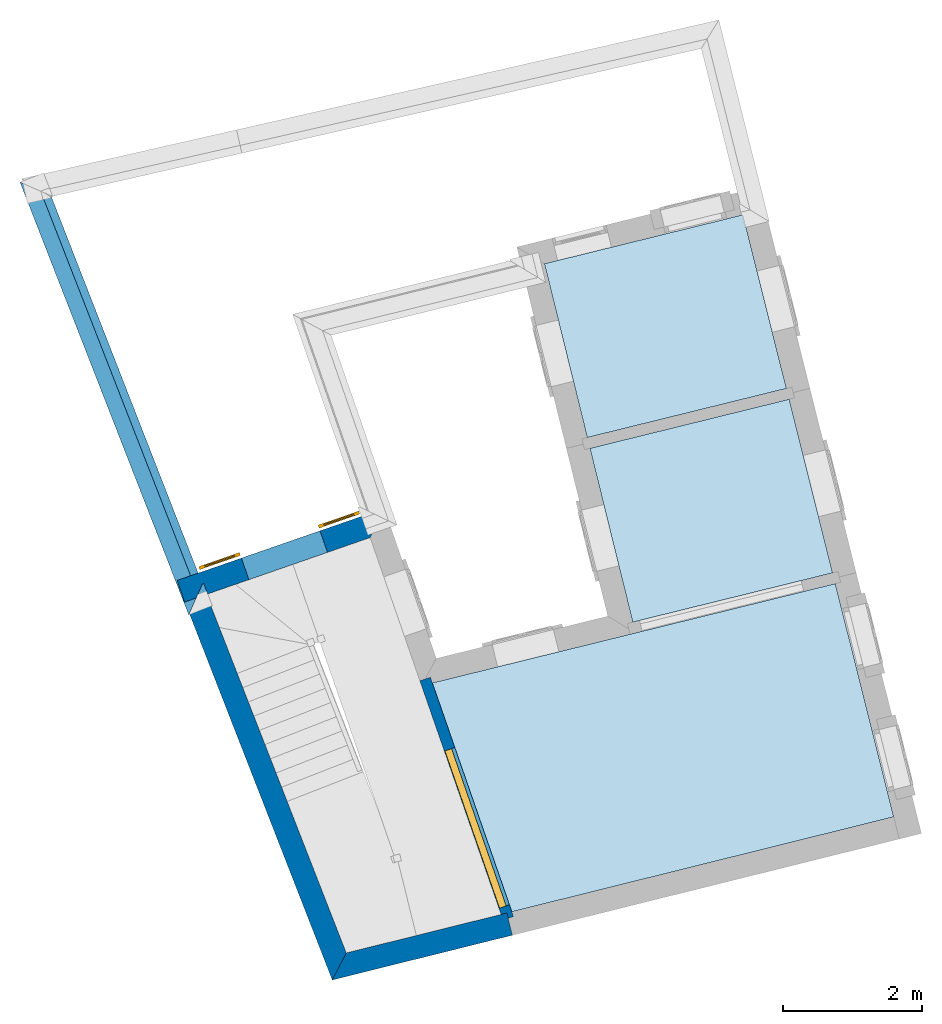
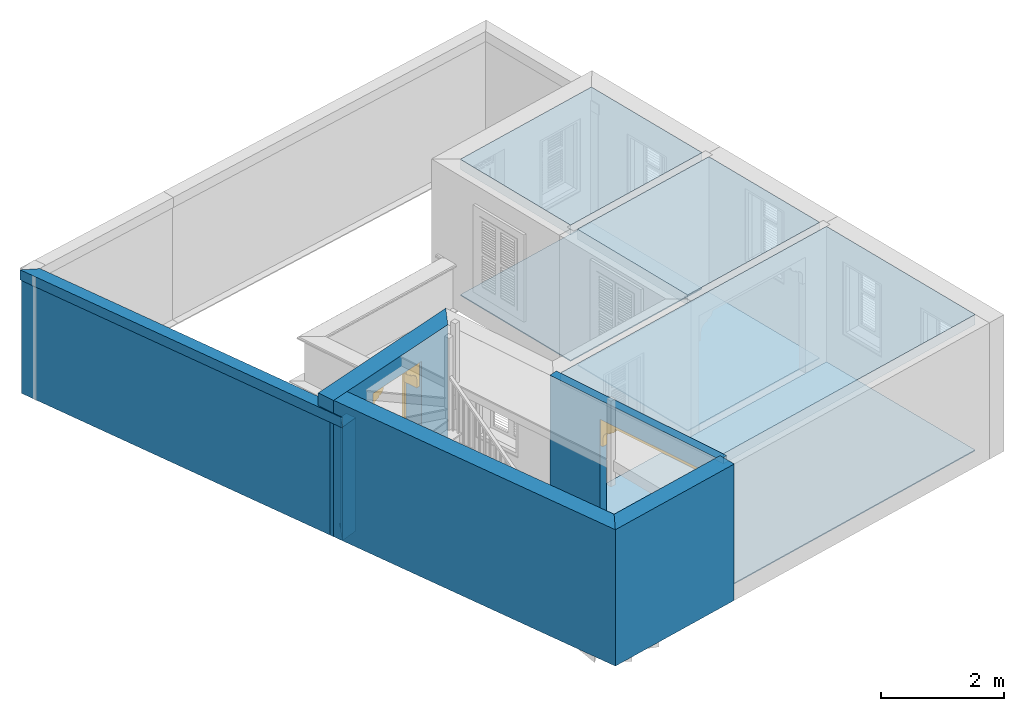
# One storey, part 1 of 8: 7 walls, 6 slabs, 2 doors, 2 openings.
"""IFC4 building model written with IfcOpenShell, lengths in metres."""

from ifc_helpers import new_model, si_unit, frame, origin, origin_with_axes, place, context, subcontext, project, spatial, polyline, outline, extrude, clip, halfspace, faceted_brep, source, transform, mapped, material, layer, layer_set, layer_usage, material_profile, profile_set, profile_usage, type_object, type_shapes, element, fill, save


model = new_model("IFC4")

# Units and contexts
model_context = context("Model", 3, world=origin_with_axes())
body_context = subcontext(model_context, "Body", "Model", "MODEL_VIEW")
ifc_project = project(units=[si_unit("PLANEANGLEUNIT", "RADIAN"), si_unit("MASSUNIT", "GRAM", prefix="KILO"), si_unit("FORCEUNIT", "NEWTON", prefix="KILO"), si_unit("LENGTHUNIT", "METRE"), si_unit("AREAUNIT", "SQUARE_METRE"), si_unit("VOLUMEUNIT", "CUBIC_METRE")], contexts=[model_context, model_context])

# Site, building, storey
site_placement = place(None, origin_with_axes())
site = spatial("IfcSite", under=ifc_project, at=site_placement, Name="Site plot-1", CompositionType="ELEMENT")
building_placement = place(None, origin_with_axes())
building = spatial("IfcBuilding", under=site, at=building_placement, Name="Building plot-1", CompositionType="ELEMENT")
storey_placement = place(None, frame((0.0, 0.0, 2.7), z_axis=(0.0, 0.0, 1.0), x_axis=(1.0, 0.0, 0.0)))
storey = spatial("IfcBuildingStorey", under=building, at=storey_placement, Name="plot-1 1", CompositionType="ELEMENT", Elevation=2.7)

# Slabs
slab_1_placement = place(storey_placement, frame((3.21229608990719, 18.6693950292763, 2.5)))
element("IfcSlab", 1, at=slab_1_placement, inside=storey, Name="My Slab", ObjectType="Slab", PredefinedType="FLOOR", context=body_context, shape_type="SweptSolid", body=[
    extrude(outline(polyline([(0.0, 0.0), (2.8815385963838, 0.709979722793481), (2.25444711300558, 3.21355180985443), (-0.617438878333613, 2.5059503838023), (0.0, 0.0)])), origin_with_axes(), (0.0, 0.0, 1.0), 0.2),
])
slab_2_placement = place(storey_placement, frame((3.21229608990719, 18.6693950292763, 0.0)))
element("IfcSlab", 2, at=slab_2_placement, inside=storey, Name="My Slab", ObjectType="Slab", PredefinedType="FLOOR", context=body_context, shape_type="SweptSolid", body=[
    extrude(outline(polyline([(0.0, 0.0), (2.8815385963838, 0.709979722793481), (2.25444711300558, 3.21355180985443), (-0.617438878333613, 2.5059503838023), (0.0, 0.0)])), origin_with_axes(), (0.0, 0.0, 1.0), 0.02),
])
slab_3_placement = place(storey_placement, frame((5.42786729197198, 22.0381532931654, 2.5)))
element("IfcSlab", 3, at=slab_3_placement, inside=storey, Name="My Slab", ObjectType="Slab", PredefinedType="FLOOR", context=body_context, shape_type="SweptSolid", body=[
    extrude(outline(polyline([(0.0, 0.0), (-0.627091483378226, 2.50357208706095), (-3.48872646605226, 1.79849639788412), (-2.87128758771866, -0.707453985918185), (0.0, 0.0)])), origin_with_axes(), (0.0, 0.0, 1.0), 0.2),
])
slab_4_placement = place(storey_placement, frame((5.42786729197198, 22.0381532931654, 0.0)))
element("IfcSlab", 4, at=slab_4_placement, inside=storey, Name="My Slab", ObjectType="Slab", PredefinedType="FLOOR", context=body_context, shape_type="SweptSolid", body=[
    extrude(outline(polyline([(0.0, 0.0), (-0.627091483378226, 2.50357208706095), (-3.48872646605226, 1.79849639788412), (-2.87128758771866, -0.707453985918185), (0.0, 0.0)])), origin_with_axes(), (0.0, 0.0, 1.0), 0.02),
])
slab_5_placement = place(storey_placement, frame((0.32336666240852, 17.7928092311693, 2.5)))
element("IfcSlab", 5, at=slab_5_placement, inside=storey, Name="My Slab", ObjectType="Slab", PredefinedType="FLOOR", context=body_context, shape_type="SweptSolid", body=[
    extrude(outline(polyline([(0.0, 0.0), (1.14584989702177, -3.29921085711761), (6.6514852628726, -1.93076843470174), (5.80934393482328, 1.43135906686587), (0.0, 0.0)])), origin_with_axes(), (0.0, 0.0, 1.0), 0.2),
])
slab_6_placement = place(storey_placement, frame((0.32336666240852, 17.7928092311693, 0.0)))
element("IfcSlab", 6, at=slab_6_placement, inside=storey, Name="My Slab", ObjectType="Slab", PredefinedType="FLOOR", context=body_context, shape_type="SweptSolid", body=[
    extrude(outline(polyline([(0.0, 0.0), (1.14584989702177, -3.29921085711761), (6.6514852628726, -1.93076843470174), (5.80934393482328, 1.43135906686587), (0.0, 0.0)])), origin_with_axes(), (0.0, 0.0, 1.0), 0.02),
])

# Wall, opening, door
ifc_material_1 = material(Name="Masonry")
ifc_layer_1 = layer(ifc_material_1, 0.33, ventilated=False)
ifc_layer_set_1 = layer_set([ifc_layer_1], Name="exterior_0.08_0.25")
ifc_layer_usage_1 = layer_usage(ifc_layer_set_1, "AXIS2", "POSITIVE", -0.25)
wall_type_1 = type_object("IfcWallType", Name="exterior_0.08_0.25", PredefinedType="SOLIDWALL", material=ifc_layer_set_1)
wall_1_placement = place(storey_placement, frame((-0.524368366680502, 19.9898284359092, 0.0), z_axis=(0.0, 0.0, 1.0), x_axis=(-0.944647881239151, -0.328085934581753, 0.0)))
wall_1 = element("IfcWall", 7, at=wall_1_placement, inside=storey, type_object=wall_type_1, material=ifc_layer_usage_1, Name="exterior", context=body_context, shape_type="SweptSolid", body=[
    extrude(outline(polyline([(0.0799999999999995, 0.0799999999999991), (-0.249999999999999, -0.249999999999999), (2.91117707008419, -0.25), (2.91117707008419, 0.0799999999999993), (0.0799999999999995, 0.0799999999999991)])), origin_with_axes(), (0.0, 0.0, 1.0), 2.7),
])
opening_1_placement = place(wall_1_placement, frame((0.730588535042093, 0.0, 0.02)))
opening_1 = element("IfcOpeningElement", 8, at=opening_1_placement, cuts=wall_1, Name="My Opening", ObjectType="Opening", context=body_context, shape_type="SweptSolid", body=[
    extrude(outline(polyline([(0.0, -0.27), (1.2, -0.269999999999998), (1.2, 1.1), (-3.33066907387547e-16, 1.1), (0.0, -0.27)])), origin_with_axes(), (0.0, 0.0, 1.0), 2.3),
])
door_type_1 = type_object("IfcDoorType", Name="arch-1200x2300", OperationType="SINGLE_SWING_LEFT", PredefinedType="NOTDEFINED")
shared_shape_1 = source(origin(), body_context, "Body", "Brep", [
    faceted_brep([(-0.08, -0.02, 0.08), (-0.08, -0.02, 0.0), (-0.54, -0.02, 0.0), (-0.54, -0.02, 0.08), (-0.62, -0.02, 0.0), (-0.62, -0.02, 0.08), (-0.54, -0.035, 0.08), (-0.08, -0.035, 0.08), (0.0, -0.02, 0.08), (0.0, -0.02, 0.0), (-0.08, -0.066, 0.0), (-0.54, -0.066, 0.0), (-0.62, -0.066, 0.0), (-0.62, -0.066, 0.08), (-0.54, -0.02, 0.743333), (-0.62, -0.02, 0.743333), (-0.54, -0.035, 0.743333), (-0.08, -0.035, 0.743333), (-0.08, -0.02, 0.743333), (0.0, -0.02, 0.743333), (0.0, -0.066, 0.08), (0.0, -0.066, 0.0), (-0.54, -0.066, 0.08), (-0.08, -0.066, 0.08), (-0.62, -0.066, 0.743333), (-0.54, -0.02, 0.823333), (-0.62, -0.02, 0.823333), (0.0, -0.066, 0.743333), (0.0, -0.02, 0.823333), (-0.08, -0.02, 0.823333), (-0.08, -0.051, 0.08), (-0.54, -0.051, 0.08), (-0.54, -0.066, 0.743333), (-0.62, -0.066, 0.823333), (-0.54, -0.02, 1.486667), (-0.62, -0.02, 1.486667), (0.0, -0.066, 0.823333), (-0.08, -0.066, 0.743333), (0.0, -0.02, 1.486667), (-0.08, -0.02, 1.486667), (-0.08, -0.051, 0.743333), (-0.54, -0.051, 0.743333), (-0.54, -0.066, 0.823333), (-0.62, -0.066, 1.486667), (-0.54, -0.035, 0.823333), (-0.08, -0.035, 0.823333), (-0.54, -0.035, 1.486667), (-0.54, -0.02, 1.566667), (-0.62, -0.02, 1.566667), (0.0, -0.066, 1.486667), (-0.08, -0.066, 0.823333), (-0.08, -0.035, 1.486667), (0.0, -0.02, 1.566667), (-0.08, -0.02, 1.566667), (-0.54, -0.066, 1.486667), (-0.62, -0.066, 1.566667), (-0.54, -0.02, 2.23), (-0.62, -0.02, 2.23), (0.0, -0.066, 1.566667), (-0.08, -0.066, 1.486667), (0.0, -0.02, 2.23), (-0.08, -0.02, 2.23), (-0.08, -0.051, 0.823333), (-0.54, -0.051, 0.823333), (-0.54, -0.051, 1.486667), (-0.54, -0.066, 1.566667), (-0.62, -0.066, 2.23), (-0.54, -0.035, 1.566667), (-0.08, -0.035, 1.566667), (-0.54, -0.035, 2.23), (-0.54, -0.02, 2.31), (-0.62, -0.02, 2.31), (0.0, -0.066, 2.23), (-0.08, -0.066, 1.566667), (-0.08, -0.051, 1.486667), (-0.08, -0.035, 2.23), (0.0, -0.02, 2.31), (-0.08, -0.02, 2.31), (-0.54, -0.066, 2.23), (-0.62, -0.066, 2.31), (-0.54, -0.066, 2.31), (0.0, -0.066, 2.31), (-0.08, -0.066, 2.23), (-0.08, -0.066, 2.31), (-0.08, -0.051, 1.566667), (-0.54, -0.051, 1.566667), (-0.54, -0.051, 2.23), (-0.08, -0.051, 2.23), (1.74, -0.02, 0.08), (1.74, -0.02, 0.0), (1.28, -0.02, 0.0), (1.28, -0.02, 0.08), (1.82, -0.02, 0.08), (1.82, -0.02, 0.0), (1.28, -0.035, 0.08), (1.74, -0.035, 0.08), (1.2, -0.02, 0.0), (1.2, -0.02, 0.08), (1.74, -0.066, 0.0), (1.28, -0.066, 0.0), (1.82, -0.066, 0.08), (1.82, -0.066, 0.0), (1.82, -0.02, 0.743333), (1.74, -0.02, 0.743333), (1.74, -0.035, 0.743333), (1.28, -0.035, 0.743333), (1.28, -0.02, 0.743333), (1.2, -0.02, 0.743333), (1.2, -0.066, 0.0), (1.2, -0.066, 0.08), (1.28, -0.066, 0.08), (1.74, -0.066, 0.08), (1.82, -0.066, 0.743333), (1.82, -0.02, 0.823333), (1.74, -0.02, 0.823333), (1.2, -0.066, 0.743333), (1.28, -0.02, 0.823333), (1.2, -0.02, 0.823333), (1.74, -0.051, 0.08), (1.28, -0.051, 0.08), (1.74, -0.066, 0.743333), (1.82, -0.066, 0.823333), (1.82, -0.02, 1.486667), (1.74, -0.02, 1.486667), (1.2, -0.066, 0.823333), (1.28, -0.066, 0.743333), (1.28, -0.02, 1.486667), (1.2, -0.02, 1.486667), (1.28, -0.051, 0.743333), (1.74, -0.051, 0.743333), (1.74, -0.066, 0.823333), (1.82, -0.066, 1.486667), (1.28, -0.035, 0.823333), (1.74, -0.035, 0.823333), (1.74, -0.035, 1.486667), (1.82, -0.02, 1.566667), (1.74, -0.02, 1.566667), (1.2, -0.066, 1.486667), (1.28, -0.066, 0.823333), (1.28, -0.035, 1.486667), (1.28, -0.02, 1.566667), (1.2, -0.02, 1.566667), (1.74, -0.066, 1.486667), (1.82, -0.066, 1.566667), (1.82, -0.02, 2.23), (1.74, -0.02, 2.23), (1.2, -0.066, 1.566667), (1.28, -0.066, 1.486667), (1.28, -0.02, 2.23), (1.2, -0.02, 2.23), (1.74, -0.051, 0.823333), (1.28, -0.051, 0.823333), (1.74, -0.051, 1.486667), (1.74, -0.066, 1.566667), (1.82, -0.066, 2.23), (1.28, -0.035, 1.566667), (1.74, -0.035, 1.566667), (1.74, -0.035, 2.23), (1.82, -0.02, 2.31), (1.74, -0.02, 2.31), (1.2, -0.066, 2.23), (1.28, -0.066, 1.566667), (1.28, -0.051, 1.486667), (1.28, -0.035, 2.23), (1.28, -0.02, 2.31), (1.2, -0.02, 2.31), (1.74, -0.066, 2.23), (1.82, -0.066, 2.31), (1.74, -0.066, 2.31), (1.2, -0.066, 2.31), (1.28, -0.066, 2.23), (1.28, -0.066, 2.31), (1.74, -0.051, 1.566667), (1.28, -0.051, 1.566667), (1.74, -0.051, 2.23), (1.28, -0.051, 2.23), (1.2, 0.03, 1.78), (1.2, 0.03, 1.95), (1.14, 0.03, 1.95), (1.14, 0.03, 1.78), (1.14, 0.3, 1.95), (1.14, 0.3, 1.78), (1.2, 0.03, 2.12), (1.129, 0.03, 2.004), (1.2, 0.3, 1.78), (1.2, 0.3, 1.95), (1.129, 0.3, 2.004), (1.099, 0.03, 2.049), (1.2, 0.3, 2.12), (1.099, 0.3, 2.049), (1.054, 0.03, 2.079), (1.2, 0.3, 2.29), (1.2, 0.03, 2.29), (1.054, 0.3, 2.079), (1.0, 0.03, 2.09), (1.0, 0.03, 2.12), (0.954, 0.03, 2.129), (0.88, 0.3, 2.29), (0.88, 0.03, 2.29), (1.0, 0.3, 2.12), (0.954, 0.3, 2.129), (1.0, 0.3, 2.09), (0.915, 0.03, 2.155), (0.889, 0.3, 2.194), (0.88, 0.3, 2.24), (0.88, 0.03, 2.24), (0.889, 0.03, 2.194), (0.915, 0.3, 2.155), (0.06, 0.03, 1.78), (0.06, 0.03, 1.95), (0.0, 0.03, 1.95), (0.0, 0.03, 1.78), (0.06, 0.3, 1.78), (0.06, 0.3, 1.95), (0.071, 0.03, 2.004), (0.0, 0.03, 2.12), (0.0, 0.3, 1.95), (0.0, 0.3, 1.78), (0.071, 0.3, 2.004), (0.101, 0.03, 2.049), (0.0, 0.3, 2.12), (0.101, 0.3, 2.049), (0.146, 0.03, 2.079), (0.0, 0.03, 2.29), (0.0, 0.3, 2.29), (0.146, 0.3, 2.079), (0.2, 0.03, 2.12), (0.2, 0.03, 2.09), (0.246, 0.03, 2.129), (0.32, 0.03, 2.29), (0.32, 0.3, 2.29), (0.246, 0.3, 2.129), (0.2, 0.3, 2.12), (0.2, 0.3, 2.09), (0.285, 0.03, 2.155), (0.32, 0.3, 2.24), (0.311, 0.3, 2.194), (0.311, 0.03, 2.194), (0.32, 0.03, 2.24), (0.285, 0.3, 2.155)], [[[0, 1, 2, 3]], [[4, 5, 3, 2]], [[0, 3, 6, 7]], [[1, 0, 8, 9]], [[2, 1, 10, 11]], [[5, 4, 12, 13]], [[14, 3, 5, 15]], [[4, 2, 11, 12]], [[3, 14, 16, 6]], [[6, 16, 17, 7]], [[18, 0, 7, 17]], [[0, 18, 19, 8]], [[9, 8, 20, 21]], [[1, 9, 21, 10]], [[22, 11, 10, 23]], [[13, 12, 11, 22]], [[15, 5, 13, 24]], [[25, 14, 15, 26]], [[14, 18, 17, 16]], [[8, 19, 27, 20]], [[28, 19, 18, 29]], [[23, 10, 21, 20]], [[22, 23, 30, 31]], [[22, 32, 24, 13]], [[26, 15, 24, 33]], [[29, 18, 14, 25]], [[34, 25, 26, 35]], [[19, 28, 36, 27]], [[20, 27, 37, 23]], [[38, 28, 29, 39]], [[23, 37, 40, 30]], [[41, 31, 30, 40]], [[32, 22, 31, 41]], [[32, 42, 33, 24]], [[35, 26, 33, 43]], [[29, 25, 44, 45]], [[25, 34, 46, 44]], [[47, 34, 35, 48]], [[28, 38, 49, 36]], [[27, 36, 50, 37]], [[39, 29, 45, 51]], [[52, 38, 39, 53]], [[37, 32, 41, 40]], [[37, 50, 42, 32]], [[42, 54, 43, 33]], [[48, 35, 43, 55]], [[44, 46, 51, 45]], [[34, 39, 51, 46]], [[34, 47, 53, 39]], [[56, 47, 48, 57]], [[38, 52, 58, 49]], [[36, 49, 59, 50]], [[60, 52, 53, 61]], [[42, 50, 62, 63]], [[54, 42, 63, 64]], [[54, 65, 55, 43]], [[57, 48, 55, 66]], [[53, 47, 67, 68]], [[47, 56, 69, 67]], [[70, 56, 57, 71]], [[52, 60, 72, 58]], [[49, 58, 73, 59]], [[50, 59, 74, 62]], [[61, 53, 68, 75]], [[76, 60, 61, 77]], [[64, 63, 62, 74]], [[59, 54, 64, 74]], [[65, 54, 59, 73]], [[65, 78, 66, 55]], [[71, 57, 66, 79]], [[67, 69, 75, 68]], [[56, 61, 75, 69]], [[77, 61, 56, 70]], [[70, 71, 79, 80]], [[60, 76, 81, 72]], [[58, 72, 82, 73]], [[76, 77, 83, 81]], [[65, 73, 84, 85]], [[78, 65, 85, 86]], [[78, 80, 79, 66]], [[77, 70, 80, 83]], [[72, 81, 83, 82]], [[73, 82, 87, 84]], [[86, 85, 84, 87]], [[82, 78, 86, 87]], [[82, 83, 80, 78]], [[88, 89, 90, 91]], [[89, 88, 92, 93]], [[94, 95, 88, 91]], [[96, 97, 91, 90]], [[98, 99, 90, 89]], [[100, 101, 93, 92]], [[102, 92, 88, 103]], [[101, 98, 89, 93]], [[95, 104, 103, 88]], [[94, 105, 104, 95]], [[105, 94, 91, 106]], [[97, 107, 106, 91]], [[108, 109, 97, 96]], [[99, 108, 96, 90]], [[110, 99, 98, 111]], [[111, 98, 101, 100]], [[112, 100, 92, 102]], [[113, 102, 103, 114]], [[104, 105, 106, 103]], [[109, 115, 107, 97]], [[116, 106, 107, 117]], [[109, 108, 99, 110]], [[118, 119, 110, 111]], [[100, 112, 120, 111]], [[121, 112, 102, 113]], [[114, 103, 106, 116]], [[122, 113, 114, 123]], [[115, 124, 117, 107]], [[110, 125, 115, 109]], [[126, 116, 117, 127]], [[119, 128, 125, 110]], [[128, 119, 118, 129]], [[129, 118, 111, 120]], [[112, 121, 130, 120]], [[131, 121, 113, 122]], [[132, 133, 114, 116]], [[133, 134, 123, 114]], [[135, 122, 123, 136]], [[124, 137, 127, 117]], [[125, 138, 124, 115]], [[139, 132, 116, 126]], [[140, 126, 127, 141]], [[128, 129, 120, 125]], [[120, 130, 138, 125]], [[121, 131, 142, 130]], [[143, 131, 122, 135]], [[132, 139, 134, 133]], [[134, 139, 126, 123]], [[126, 140, 136, 123]], [[144, 135, 136, 145]], [[137, 146, 141, 127]], [[138, 147, 137, 124]], [[148, 140, 141, 149]], [[150, 151, 138, 130]], [[152, 150, 130, 142]], [[131, 143, 153, 142]], [[154, 143, 135, 144]], [[155, 156, 136, 140]], [[156, 157, 145, 136]], [[158, 144, 145, 159]], [[146, 160, 149, 141]], [[147, 161, 146, 137]], [[151, 162, 147, 138]], [[163, 155, 140, 148]], [[164, 148, 149, 165]], [[162, 151, 150, 152]], [[162, 152, 142, 147]], [[161, 147, 142, 153]], [[143, 154, 166, 153]], [[167, 154, 144, 158]], [[155, 163, 157, 156]], [[157, 163, 148, 145]], [[159, 145, 148, 164]], [[168, 167, 158, 159]], [[160, 169, 165, 149]], [[161, 170, 160, 146]], [[169, 171, 164, 165]], [[172, 173, 161, 153]], [[174, 172, 153, 166]], [[154, 167, 168, 166]], [[171, 168, 159, 164]], [[170, 171, 169, 160]], [[173, 175, 170, 161]], [[175, 173, 172, 174]], [[175, 174, 166, 170]], [[166, 168, 171, 170]], [[176, 177, 178, 179]], [[180, 181, 179, 178]], [[177, 182, 183, 178]], [[177, 176, 184, 185]], [[181, 184, 176, 179]], [[181, 180, 185, 184]], [[186, 180, 178, 183]], [[182, 187, 183]], [[182, 177, 185, 188]], [[180, 186, 188, 185]], [[189, 186, 183, 187]], [[182, 190, 187]], [[188, 191, 192, 182]], [[188, 186, 189]], [[193, 189, 187, 190]], [[194, 190, 182, 195]], [[182, 192, 196, 195]], [[192, 191, 197, 198]], [[199, 200, 191, 188]], [[188, 189, 193]], [[201, 193, 190, 194]], [[199, 201, 194, 195]], [[200, 199, 195, 196]], [[192, 202, 196]], [[191, 203, 204, 197]], [[192, 198, 205, 206]], [[207, 191, 200]], [[199, 188, 193, 201]], [[207, 200, 196, 202]], [[192, 206, 202]], [[204, 203, 206, 205]], [[203, 191, 207]], [[203, 207, 202, 206]], [[208, 209, 210, 211]], [[209, 208, 212, 213]], [[209, 214, 215, 210]], [[211, 210, 216, 217]], [[208, 211, 217, 212]], [[217, 216, 213, 212]], [[214, 209, 213, 218]], [[214, 219, 215]], [[220, 216, 210, 215]], [[216, 220, 218, 213]], [[219, 214, 218, 221]], [[219, 222, 215]], [[215, 223, 224, 220]], [[221, 218, 220]], [[222, 219, 221, 225]], [[226, 215, 222, 227]], [[226, 228, 223, 215]], [[229, 230, 224, 223]], [[220, 224, 231, 232]], [[225, 221, 220]], [[227, 222, 225, 233]], [[226, 227, 233, 232]], [[228, 226, 232, 231]], [[228, 234, 223]], [[230, 235, 236, 224]], [[237, 238, 229, 223]], [[231, 224, 239]], [[233, 225, 220, 232]], [[234, 228, 231, 239]], [[234, 237, 223]], [[238, 237, 236, 235]], [[239, 224, 236]], [[237, 234, 239, 236]], [[238, 235, 204, 205]], [[235, 230, 197, 204]], [[229, 238, 205, 198]], [[230, 229, 198, 197]]]),
])
type_shapes(door_type_1, [shared_shape_1])
door_1_placement = place(storey_placement, frame((-1.3031004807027, 20.0051875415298, 0.02), z_axis=(0.0, 0.0, 1.0), x_axis=(-1.13357745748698, -0.393703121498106, 0.0)))
door_1 = element("IfcDoor", 9, at=door_1_placement, inside=storey, type_object=door_type_1, Name="circulation sahn door", OverallHeight=2.3, OverallWidth=1.2, context=body_context, shape_type="MappedRepresentation", body=[
    mapped(shared_shape_1, transform((0.0, 0.0, 0.0), scale=1.0)),
])
fill(opening_1, door_1)

# Walls
ifc_material_2 = material(Name="Masonry")
ifc_layer_2 = layer(ifc_material_2, 0.33, ventilated=False)
ifc_layer_set_2 = layer_set([ifc_layer_2], Name="party_0.08_0.25")
ifc_layer_usage_2 = layer_usage(ifc_layer_set_2, "AXIS2", "POSITIVE", -0.25)
wall_type_2 = type_object("IfcWallType", Name="party_0.08_0.25", PredefinedType="SOLIDWALL", material=ifc_layer_set_2)
wall_2_placement = place(storey_placement, frame((-3.03824364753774, 19.1167336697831, 0.0), z_axis=(0.0, 0.0, 1.0), x_axis=(0.363339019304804, -0.931656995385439, 0.0)))
element("IfcWall", 10, at=wall_2_placement, inside=storey, type_object=wall_type_2, material=ifc_layer_usage_2, Name="party", context=body_context, shape_type="SweptSolid", body=[
    extrude(outline(polyline([(1.26611194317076e-15, 0.0799999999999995), (-2.67968859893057e-16, -0.25), (5.92052541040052, -0.25), (5.63034385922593, 0.0799999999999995), (1.26611194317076e-15, 0.0799999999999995)])), origin_with_axes(), (0.0, 0.0, 1.0), 2.7),
])
wall_3_placement = place(storey_placement, frame((-0.966960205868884, 13.8056451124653, 0.0), z_axis=(0.0, 0.0, 1.0), x_axis=(0.970472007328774, 0.241213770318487, 0.0)))
element("IfcWall", 11, at=wall_3_placement, inside=storey, type_object=wall_type_2, material=ifc_layer_usage_2, Name="party", context=body_context, shape_type="SweptSolid", body=[
    extrude(outline(polyline([(0.0703470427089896, 0.0800000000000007), (-0.219834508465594, -0.25), (2.45712801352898, -0.25), (2.45712801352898, 0.0800000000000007), (0.0703470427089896, 0.0800000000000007)])), origin_with_axes(), (0.0, 0.0, 1.0), 2.7),
])

# Wall, opening, door
ifc_material_3 = material(Name="Masonry")
ifc_layer_3 = layer(ifc_material_3, 0.16, ventilated=False)
ifc_layer_set_3 = layer_set([ifc_layer_3], Name="interior_0.08_0.08")
ifc_layer_usage_3 = layer_usage(ifc_layer_set_3, "AXIS2", "POSITIVE", -0.08)
wall_type_3 = type_object("IfcWallType", Name="interior_0.08_0.08", PredefinedType="SOLIDWALL", material=ifc_layer_set_3)
wall_4_placement = place(storey_placement, frame((0.218994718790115, 17.8494856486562, 0.0), z_axis=(0.0, 0.0, 1.0), x_axis=(0.328085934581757, -0.94464788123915, 0.0)))
wall_4 = element("IfcWall", 12, at=wall_4_placement, inside=storey, type_object=wall_type_3, material=ifc_layer_usage_3, Name="interior", context=body_context, shape_type="SweptSolid", body=[
    extrude(outline(polyline([(-1.62934970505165e-15, 0.0800000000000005), (1.61955253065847e-15, -0.0800000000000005), (3.65336914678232, -0.0800000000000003), (3.65336914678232, 0.0800000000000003), (-1.62934970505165e-15, 0.0800000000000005)])), origin_with_axes(), (0.0, 0.0, 1.0), 2.7),
])
opening_2_placement = place(wall_4_placement, frame((1.07336914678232, 0.0, 0.02)))
opening_2 = element("IfcOpeningElement", 13, at=opening_2_placement, cuts=wall_4, Name="My Opening", ObjectType="Opening", context=body_context, shape_type="SweptSolid", body=[
    extrude(outline(polyline([(0.0, -0.0999999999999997), (2.4, -0.0999999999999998), (2.4, 1.1), (2.66453525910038e-15, 1.1), (0.0, -0.0999999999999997)])), origin_with_axes(), (0.0, 0.0, 1.0), 2.3),
])
door_type_2 = type_object("IfcDoorType", Name="arch-2400x2300-thin", OperationType="SINGLE_SWING_LEFT", PredefinedType="NOTDEFINED")
shared_shape_2 = source(origin(), body_context, "Body", "Brep", [
    faceted_brep([(2.4, 0.03, 1.78), (2.4, 0.03, 1.95), (2.34, 0.03, 1.95), (2.34, 0.03, 1.78), (2.34, 0.13, 1.95), (2.34, 0.13, 1.78), (2.4, 0.03, 2.12), (2.329, 0.03, 2.004), (2.4, 0.13, 1.78), (2.4, 0.13, 1.95), (2.329, 0.13, 2.004), (2.299, 0.03, 2.049), (2.4, 0.13, 2.12), (2.299, 0.13, 2.049), (2.254, 0.03, 2.079), (2.4, 0.13, 2.29), (2.4, 0.03, 2.29), (2.254, 0.13, 2.079), (2.2, 0.03, 2.09), (2.2, 0.03, 2.12), (2.154, 0.03, 2.129), (2.08, 0.13, 2.29), (2.08, 0.03, 2.29), (2.2, 0.13, 2.12), (2.154, 0.13, 2.129), (2.2, 0.13, 2.09), (2.115, 0.03, 2.155), (2.089, 0.13, 2.194), (2.08, 0.13, 2.24), (2.08, 0.03, 2.24), (2.089, 0.03, 2.194), (2.115, 0.13, 2.155), (0.06, 0.03, 1.78), (0.06, 0.03, 1.95), (0.0, 0.03, 1.95), (0.0, 0.03, 1.78), (0.06, 0.13, 1.78), (0.06, 0.13, 1.95), (0.071, 0.03, 2.004), (0.0, 0.03, 2.12), (0.0, 0.13, 1.95), (0.0, 0.13, 1.78), (0.071, 0.13, 2.004), (0.101, 0.03, 2.049), (0.0, 0.13, 2.12), (0.101, 0.13, 2.049), (0.146, 0.03, 2.079), (0.0, 0.03, 2.29), (0.0, 0.13, 2.29), (0.146, 0.13, 2.079), (0.2, 0.03, 2.12), (0.2, 0.03, 2.09), (0.246, 0.03, 2.129), (0.32, 0.03, 2.29), (0.32, 0.13, 2.29), (0.246, 0.13, 2.129), (0.2, 0.13, 2.12), (0.2, 0.13, 2.09), (0.285, 0.03, 2.155), (0.32, 0.13, 2.24), (0.311, 0.13, 2.194), (0.311, 0.03, 2.194), (0.32, 0.03, 2.24), (0.285, 0.13, 2.155)], [[[0, 1, 2, 3]], [[4, 5, 3, 2]], [[1, 6, 7, 2]], [[1, 0, 8, 9]], [[5, 8, 0, 3]], [[5, 4, 9, 8]], [[10, 4, 2, 7]], [[6, 11, 7]], [[6, 1, 9, 12]], [[4, 10, 12, 9]], [[13, 10, 7, 11]], [[6, 14, 11]], [[12, 15, 16, 6]], [[12, 10, 13]], [[17, 13, 11, 14]], [[18, 14, 6, 19]], [[6, 16, 20, 19]], [[16, 15, 21, 22]], [[23, 24, 15, 12]], [[12, 13, 17]], [[25, 17, 14, 18]], [[23, 25, 18, 19]], [[24, 23, 19, 20]], [[16, 26, 20]], [[15, 27, 28, 21]], [[16, 22, 29, 30]], [[31, 15, 24]], [[23, 12, 17, 25]], [[31, 24, 20, 26]], [[16, 30, 26]], [[28, 27, 30, 29]], [[27, 15, 31]], [[27, 31, 26, 30]], [[32, 33, 34, 35]], [[33, 32, 36, 37]], [[33, 38, 39, 34]], [[35, 34, 40, 41]], [[32, 35, 41, 36]], [[41, 40, 37, 36]], [[38, 33, 37, 42]], [[38, 43, 39]], [[44, 40, 34, 39]], [[40, 44, 42, 37]], [[43, 38, 42, 45]], [[43, 46, 39]], [[39, 47, 48, 44]], [[45, 42, 44]], [[46, 43, 45, 49]], [[50, 39, 46, 51]], [[50, 52, 47, 39]], [[53, 54, 48, 47]], [[44, 48, 55, 56]], [[49, 45, 44]], [[51, 46, 49, 57]], [[50, 51, 57, 56]], [[52, 50, 56, 55]], [[52, 58, 47]], [[54, 59, 60, 48]], [[61, 62, 53, 47]], [[55, 48, 63]], [[57, 49, 44, 56]], [[58, 52, 55, 63]], [[58, 61, 47]], [[62, 61, 60, 59]], [[63, 48, 60]], [[61, 58, 63, 60]], [[62, 59, 28, 29]], [[59, 54, 21, 28]], [[53, 62, 29, 22]], [[54, 53, 22, 21]]]),
])
type_shapes(door_type_2, [shared_shape_2])
door_2_placement = place(storey_placement, frame((0.476687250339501, 16.8027211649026, 0.02), z_axis=(0.0, 0.0, 1.0), x_axis=(0.787406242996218, -2.26715491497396, 0.0)))
door_2 = element("IfcDoor", 14, at=door_2_placement, inside=storey, type_object=door_type_2, Name="living inside door", OverallHeight=2.3, OverallWidth=2.4, context=body_context, shape_type="MappedRepresentation", body=[
    mapped(shared_shape_2, transform((0.0, 0.0, 0.0), scale=1.0)),
])
fill(opening_2, door_2)

# Walls
ifc_material_profile_1 = material_profile(None, outline(polyline([(0.25, 0.0), (0.25, 2.245), (0.05, 2.245), (0.05, 0.02), (-0.08, 0.02), (-0.08, 0.0), (0.25, 0.0)])))
ifc_profile_set_1 = profile_set([ifc_material_profile_1])
ifc_profile_usage_1 = profile_usage(ifc_profile_set_1)
wall_type_4 = type_object("IfcWallType", Name="parapet party_0", PredefinedType="PARAPET", material=ifc_profile_set_1)
wall_5_placement = place(storey_placement, frame((-2.67490462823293, 18.1850766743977, 0.0), z_axis=(-0.363339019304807, 0.931656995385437, 0.0), x_axis=(-0.931656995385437, -0.363339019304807, 0.0)))
element("IfcWall", 15, at=wall_5_placement, inside=storey, type_object=wall_type_4, material=ifc_profile_usage_1, Name="parapet party_0", context=body_context, shape_type="Clipping", body=[
    clip(clip(extrude(outline(polyline([(0.25, 0.0), (0.25, 2.245), (0.05, 2.245), (0.05, 0.02), (-0.08, 0.02), (-0.08, 0.0), (0.25, 0.0)])), origin_with_axes(), (0.0, 0.0, 1.0), 8.16683270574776), halfspace(frame((0.0, 0.0, 7.16683270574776), z_axis=(0.707106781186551, 0.0, -0.707106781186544), x_axis=(0.0, 1.0, 0.0)), True)), halfspace(frame((0.0, 0.0, 1.0), z_axis=(-0.707106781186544, 0.0, -0.70710678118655), x_axis=(0.0, 1.0, 0.0)), False)),
])
ifc_profile_usage_2 = profile_usage(ifc_profile_set_1)
wall_6_placement = place(storey_placement, frame((-2.01342095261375, 19.5164065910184, 0.0), z_axis=(-0.931656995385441, -0.363339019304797, 0.0), x_axis=(0.363339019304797, -0.931656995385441, 0.0)))
element("IfcWall", 16, at=wall_6_placement, inside=storey, type_object=wall_type_4, material=ifc_profile_usage_2, Name="parapet party_0", context=body_context, shape_type="Clipping", body=[
    clip(clip(extrude(outline(polyline([(0.25, 0.0), (0.25, 2.245), (0.05, 2.245), (0.05, 0.02), (-0.08, 0.02), (-0.08, 0.0), (0.25, 0.0)])), origin_with_axes(), (0.0, 0.0, 1.0), 2.1), halfspace(frame((0.0, 0.0, 1.1), z_axis=(0.707106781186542, 0.0, -0.707106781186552), x_axis=(0.0, 1.0, 0.0)), True)), halfspace(frame((0.0, 0.0, 1.0), z_axis=(-6.12323399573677e-17, 0.0, -1.0), x_axis=(0.0, 1.0, 0.0)), False)),
])
ifc_material_profile_2 = material_profile(None, outline(polyline([(0.265, 2.245), (0.265, 2.445), (0.035, 2.445), (0.035, 2.245), (0.265, 2.245)])))
ifc_profile_set_2 = profile_set([ifc_material_profile_2])
ifc_profile_usage_3 = profile_usage(ifc_profile_set_2)
wall_type_5 = type_object("IfcWallType", Name="parapet party_1", PredefinedType="PARAPET", material=ifc_profile_set_2)
wall_7_placement = place(storey_placement, frame((-2.67490462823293, 18.1850766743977, 0.0), z_axis=(-0.363339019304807, 0.931656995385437, 0.0), x_axis=(-0.931656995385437, -0.363339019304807, 0.0)))
element("IfcWall", 17, at=wall_7_placement, inside=storey, type_object=wall_type_5, material=ifc_profile_usage_3, Name="parapet party_1", context=body_context, shape_type="Clipping", body=[
    clip(clip(extrude(outline(polyline([(0.265, 2.245), (0.265, 2.445), (0.035, 2.445), (0.035, 2.245), (0.265, 2.245)])), origin_with_axes(), (0.0, 0.0, 1.0), 8.16683270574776), halfspace(frame((0.0, 0.0, 7.16683270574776), z_axis=(0.707106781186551, 0.0, -0.707106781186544), x_axis=(0.0, 1.0, 0.0)), True)), halfspace(frame((0.0, 0.0, 1.0), z_axis=(-0.707106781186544, 0.0, -0.70710678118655), x_axis=(0.0, 1.0, 0.0)), False)),
])

save(model, "model.ifc")
